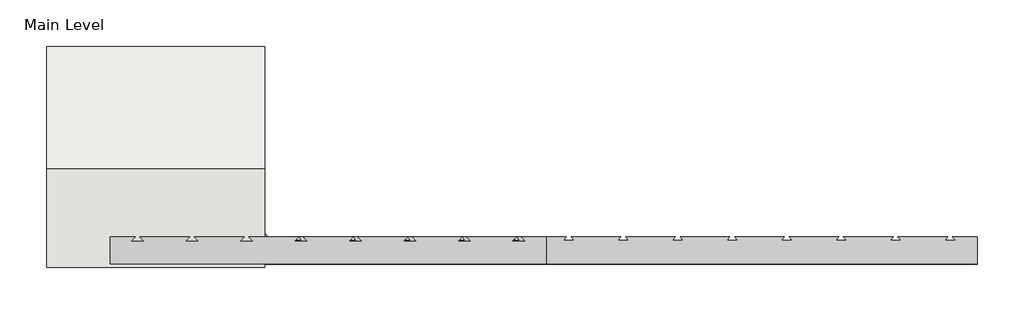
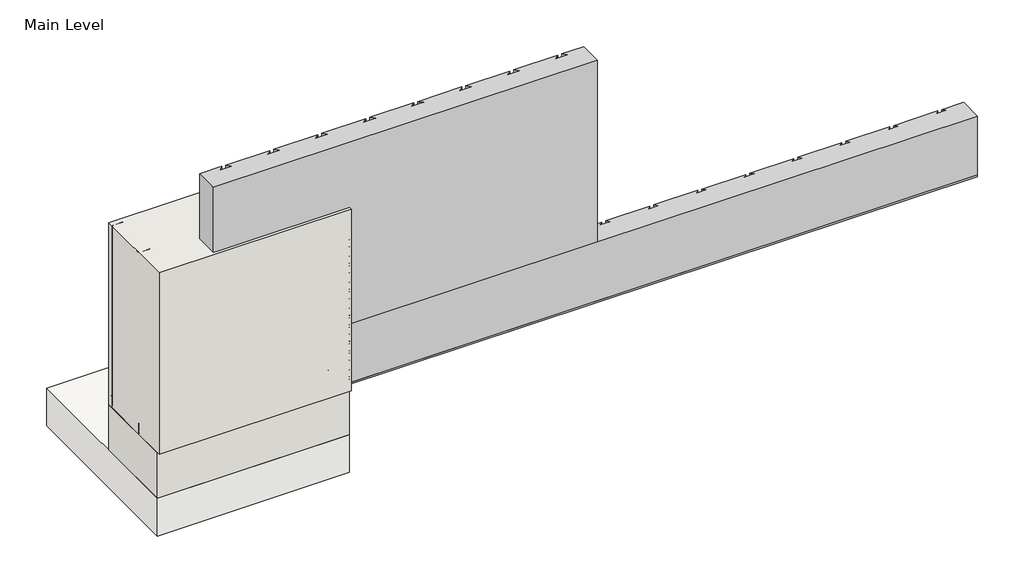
# One storey, incomplete: 12 proxies, 2 walls, 1 slab.
"""IFC4 building model written with IfcOpenShell, lengths in millimetres."""

from ifc_helpers import new_model, si_unit, frame, origin, origin_with_axes, place, context, project, spatial, polyline, outline, extrude, transform, mapped, element, save
from components import generic_models_31547c53, generic_models_0bbfdc8f, generic_models_1e1ad44f, generic_models_7dd17a53, generic_models_441de798, generic_models_a6b5edb7, generic_models_9d0e7a2a, proxy_998bcb27, proxy_b027fc18, wood_blocking_9d9260b2

model = new_model("IFC4")

# Units and contexts
model_context = context("Model", 3, world=origin())
ifc_project = project(units=[si_unit("LENGTHUNIT", "METRE", prefix="MILLI")], contexts=[model_context])

# Site, building, storey
site = spatial("IfcSite", under=ifc_project)
building = spatial("IfcBuilding", under=site)
storey = spatial("IfcBuildingStorey", under=building, Name="Main Level", Elevation=0.0)

# Proxies
placement = place(None, origin())
generic_models_shape = generic_models_31547c53(model_context)
element("IfcBuildingElementProxy", 1, Name="Durabond Generic Model Sealant Vent : Durabond Generic Model Sealant Vent", ObjectType="Durabond Generic Model Sealant Vent : Durabond Generic Model Sealant Vent", at=placement, inside=storey, context=model_context, shape_type="MappedRepresentation", body=[
    mapped(generic_models_shape, transform((26865.4101773, 546.8432813, 8.5594788), x_axis=(1.0, 0.0, 0.0), y_axis=(0.0, 0.08715574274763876, -0.9961946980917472), z_axis=(0.0, 0.9961946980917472, 0.08715574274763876))),
])
generic_models_2_shape = generic_models_0bbfdc8f(model_context)
generic_models_3_shape = generic_models_1e1ad44f(model_context)
generic_models_4_shape = generic_models_7dd17a53(model_context)
generic_models_5_shape = generic_models_441de798(model_context)
element("IfcBuildingElementProxy", 2, Name="CRAi Generic Model Mesh Piece Face Based : CRAi Generic Model Mesh Piece Face Based", ObjectType="CRAi Generic Model Mesh Piece Face Based : CRAi Generic Model Mesh Piece Face Based", at=placement, inside=storey, context=model_context, shape_type="MappedRepresentation", body=[
    mapped(generic_models_2_shape, transform((26933.6726773, 541.9066297, 261.6963215), x_axis=(-1.0, 0.0, 0.0), y_axis=(0.0, 0.0, -1.0), z_axis=(0.0, -1.0, 0.0))),
    mapped(generic_models_3_shape, transform((26933.6726773, 541.9066297, 261.6963215), x_axis=(-1.0, 0.0, 0.0), y_axis=(0.0, 0.0, -1.0), z_axis=(0.0, -1.0, 0.0))),
    mapped(generic_models_4_shape, transform((26933.6726773, 541.9066297, 261.6963215), x_axis=(-1.0, 0.0, 0.0), y_axis=(0.0, 0.0, -1.0), z_axis=(0.0, -1.0, 0.0))),
    mapped(generic_models_5_shape, transform((26933.6726773, 541.9066297, 261.6963215), x_axis=(-1.0, 0.0, 0.0), y_axis=(0.0, 0.0, -1.0), z_axis=(0.0, -1.0, 0.0))),
])
generic_models_6_shape = generic_models_a6b5edb7(model_context)
element("IfcBuildingElementProxy", 3, Name="Durabond Generic Model Insulation Adhesive Flat : Durabond Generic Model Insulation Adhesive Flat", ObjectType="Durabond Generic Model Insulation Adhesive Flat : Durabond Generic Model Insulation Adhesive Flat", at=placement, inside=storey, context=model_context, shape_type="MappedRepresentation", body=[
    mapped(generic_models_6_shape, transform((26705.0726773, 627.6316297, 88.9), x_axis=(1.0, 0.0, 0.0), y_axis=(0.0, 1.0, 0.0), z_axis=(0.0, 0.0, 1.0))),
])
element("IfcBuildingElementProxy", 4, Name="Durabond Generic Model Insulation Adhesive Flat : Durabond Generic Model Insulation Adhesive Flat", ObjectType="Durabond Generic Model Insulation Adhesive Flat : Durabond Generic Model Insulation Adhesive Flat", at=placement, inside=storey, context=model_context, shape_type="MappedRepresentation", body=[
    mapped(generic_models_6_shape, transform((26781.2726773, 627.6316297, 88.9), x_axis=(1.0, 0.0, 0.0), y_axis=(0.0, 1.0, 0.0), z_axis=(0.0, 0.0, 1.0))),
])
element("IfcBuildingElementProxy", 5, Name="Durabond Generic Model Insulation Adhesive Flat : Durabond Generic Model Insulation Adhesive Flat", ObjectType="Durabond Generic Model Insulation Adhesive Flat : Durabond Generic Model Insulation Adhesive Flat", at=placement, inside=storey, context=model_context, shape_type="MappedRepresentation", body=[
    mapped(generic_models_6_shape, transform((26857.4726773, 627.6316297, 88.9), x_axis=(1.0, 0.0, 0.0), y_axis=(0.0, 1.0, 0.0), z_axis=(0.0, 0.0, 1.0))),
])
element("IfcBuildingElementProxy", 6, Name="Durabond Generic Model Insulation Adhesive Flat : Durabond Generic Model Insulation Adhesive Flat", ObjectType="Durabond Generic Model Insulation Adhesive Flat : Durabond Generic Model Insulation Adhesive Flat", at=placement, inside=storey, context=model_context, shape_type="MappedRepresentation", body=[
    mapped(generic_models_6_shape, transform((26933.6726773, 627.6316297, 88.9), x_axis=(1.0, 0.0, 0.0), y_axis=(0.0, 1.0, 0.0), z_axis=(0.0, 0.0, 1.0))),
])
element("IfcBuildingElementProxy", 7, Name="Durabond Generic Model Insulation Adhesive Flat : Durabond Generic Model Insulation Adhesive Flat", ObjectType="Durabond Generic Model Insulation Adhesive Flat : Durabond Generic Model Insulation Adhesive Flat", at=placement, inside=storey, context=model_context, shape_type="MappedRepresentation", body=[
    mapped(generic_models_6_shape, transform((27009.8726773, 627.6316297, 88.9), x_axis=(1.0, 0.0, 0.0), y_axis=(0.0, 1.0, 0.0), z_axis=(0.0, 0.0, 1.0))),
])
element("IfcBuildingElementProxy", 8, Name="Durabond Generic Model Insulation Adhesive Flat : Durabond Generic Model Insulation Adhesive Flat", ObjectType="Durabond Generic Model Insulation Adhesive Flat : Durabond Generic Model Insulation Adhesive Flat", at=placement, inside=storey, context=model_context, shape_type="MappedRepresentation", body=[
    mapped(generic_models_6_shape, transform((27086.0726773, 627.6316297, 88.9), x_axis=(1.0, 0.0, 0.0), y_axis=(0.0, 1.0, 0.0), z_axis=(0.0, 0.0, 1.0))),
])
generic_models_7_shape = generic_models_9d0e7a2a(model_context)
element("IfcBuildingElementProxy", 9, Name="CRAi Generic Model Metal Stud Array : CRAi Generic Model Metal Stud Array", ObjectType="CRAi Generic Model Metal Stud Array : CRAi Generic Model Metal Stud Array", at=placement, inside=storey, context=model_context, shape_type="MappedRepresentation", body=[
    mapped(generic_models_7_shape, transform((26692.3726773, 726.0566297, 6.35), x_axis=(-1.0, 0.0, 0.0), y_axis=(0.0, -1.0, 0.0), z_axis=(0.0, 0.0, 1.0))),
])
proxy_shape = proxy_998bcb27(model_context)
element("IfcBuildingElementProxy", 10, Name="Durabond Generic Model Flexlite Insulation Board : 3\"", ObjectType="Durabond Generic Model Flexlite Insulation Board : 3\"", at=placement, inside=storey, context=model_context, shape_type="MappedRepresentation", body=[
    mapped(proxy_shape, transform((27276.5726773, 624.4566297, 523.392643), x_axis=(1.0, 0.0, 0.0), y_axis=(0.0, 0.0, 1.0), z_axis=(0.0, -1.0, 0.0))),
])
proxy_2_shape = proxy_b027fc18(model_context)
element("IfcBuildingElementProxy", 11, Name="Durabond Generic Model Flexlite Vent Board : 3\"", ObjectType="Durabond Generic Model Flexlite Vent Board : 3\"", at=placement, inside=storey, context=model_context, shape_type="MappedRepresentation", body=[
    mapped(proxy_2_shape, transform((27873.4726773, 624.4566297, 116.992643), x_axis=(1.0, 0.0, 0.0), y_axis=(0.0, 0.0, 1.0), z_axis=(0.0, -1.0, 0.0))),
])
wood_blocking_shape = wood_blocking_9d9260b2(model_context)
element("IfcBuildingElementProxy", 12, Name="CRAi Generic Model Line Based Metal Framing Track : Wood Blocking", ObjectType="CRAi Generic Model Line Based Metal Framing Track : Wood Blocking", at=placement, inside=storey, context=model_context, shape_type="MappedRepresentation", body=[
    mapped(wood_blocking_shape, transform((27094.739438, 802.2566297, 0.0), x_axis=(-1.0, 0.0, 0.0), y_axis=(0.0, -1.0, 0.0), z_axis=(0.0, 0.0, 1.0))),
])

# Slab
element("IfcSlab", 13, ObjectType="CRAi Concrete Floor - 5\"", at=placement, inside=storey, context=model_context, shape_type="SweptSolid", body=[
    extrude(outline(polyline([(27098.7726773, 548.2566297), (26489.1726773, 548.2566297), (26489.1726773, 1157.8566297), (27098.7726773, 1157.8566297), (27098.7726773, 548.2566297)])), frame((0.0, 0.0, -279.4), z_axis=(0.0, 0.0, 1.0), x_axis=(1.0, 0.0, 0.0)), (0.0, 0.0, 1.0), 127.0),
])

# Walls
element("IfcWall", 14, ObjectType="189mm (7.5”) EIFS Field Applied on Mtl. Stud Layer - 50mm Grooved Insulation Board Metal Stud Wall (AirStop)", at=placement, inside=storey, context=model_context, shape_type="SweptSolid", body=[
    extrude(outline(polyline([(27098.7726773, 538.7316297), (26489.1726773, 538.7316297), (26489.1726773, 814.9566297), (27098.7726773, 814.9566297), (27098.7726773, 538.7316297)])), origin_with_axes(), (0.0, 0.0, 1.0), 609.6),
])
element("IfcWall", 15, ObjectType="Durabond 10.5\" Concrete Curb", at=placement, inside=storey, context=model_context, shape_type="SweptSolid", body=[
    extrude(outline(polyline([(27098.7726773, 548.2566297), (26489.1726773, 548.2566297), (26489.1726773, 814.9566297), (27098.7726773, 814.9566297), (27098.7726773, 548.2566297)])), frame((0.0, 0.0, -152.4), z_axis=(0.0, 0.0, 1.0), x_axis=(1.0, 0.0, 0.0)), (0.0, 0.0, 1.0), 152.4),
])

save(model, "model.ifc")
